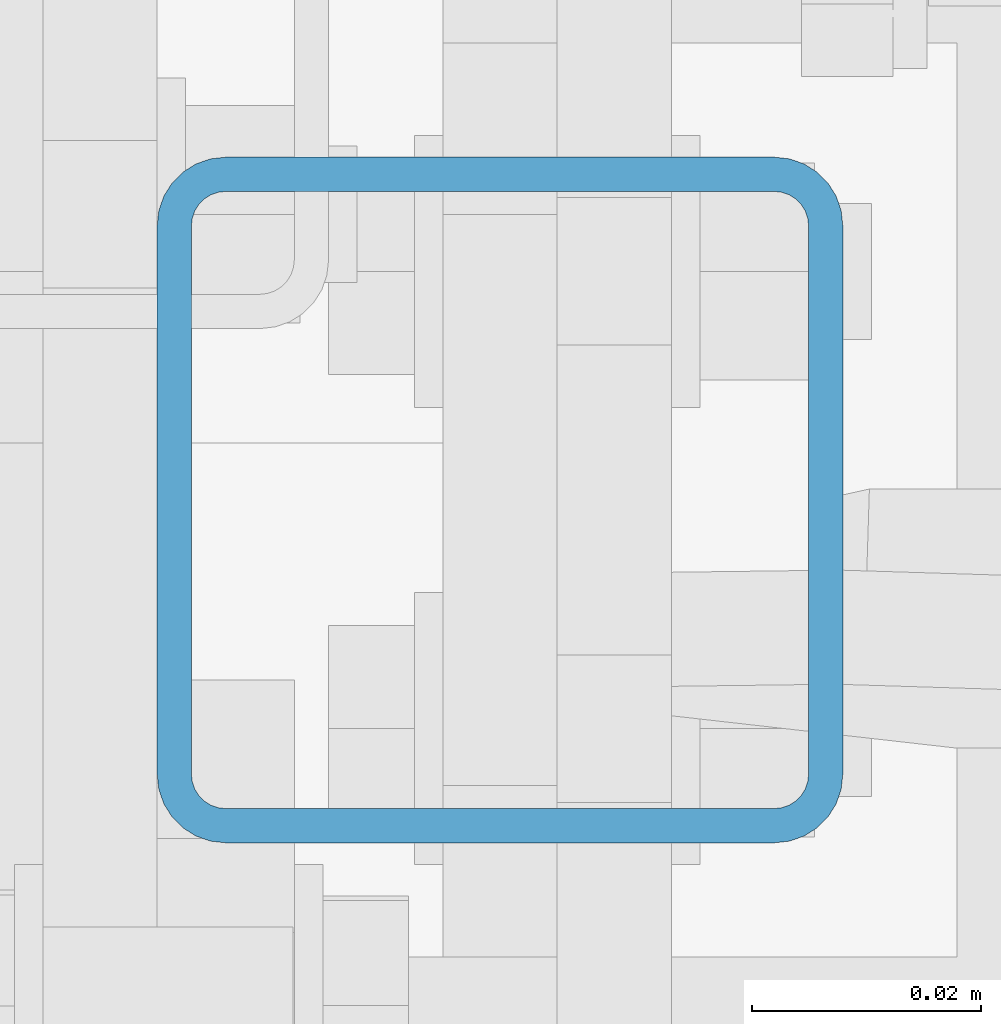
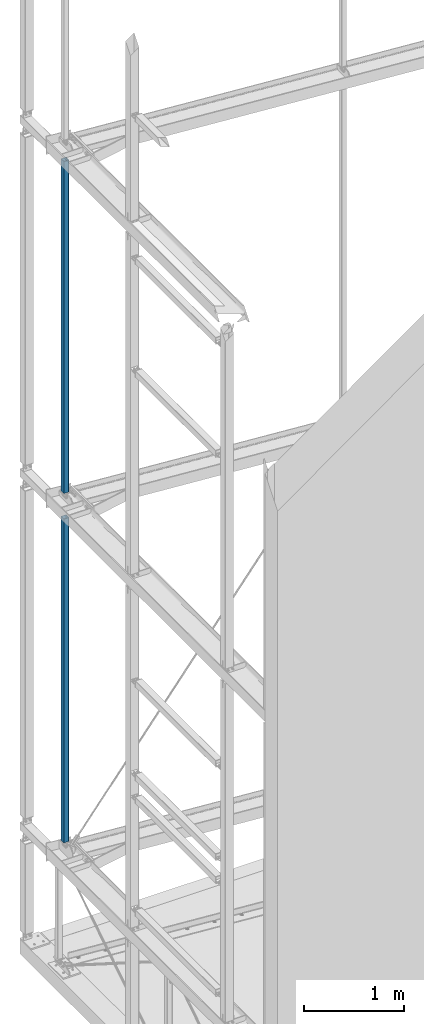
# One storey, part 27 of 271: 2 beams, 2 elements without a shape of their own.
"""IFC2X3 building model written with IfcOpenShell, lengths in millimetres."""

import ifcopenshell
import ifcopenshell.guid

model = None  # the IFC model being written
_history = None  # IfcOwnerHistory: only IFC2X3 demands one
_inside = {}  # id of a spatial element -> (the spatial element, [elements in it])
_under = {}  # id of a project, library or spatial element -> (it, [spatial elements below it])
_declared = {}  # id of a project -> (the project, [libraries it declares])
_typed = {}  # id of a type object -> (the type object, [elements of that type])
_made_of = {}  # id of a material, layer set ... -> (it, [elements and type objects made of it])


def new_model(schema):
    """Start an empty IFC model of exactly this schema.

    Asked for "IFC4X3", IfcOpenShell would pick the latest addendum, in which some entities
    have other attributes; the version numbers below select the first issue.
    IFC2X3 requires an IfcOwnerHistory on every rooted entity: one is made here for all.
    """
    global model, _history
    if schema == "IFC4X3":
        model = ifcopenshell.file(schema_version=(4, 3, 0, 0))
    else:
        model = ifcopenshell.file(schema=schema)
    _inside.clear()
    _under.clear()
    _declared.clear()
    _typed.clear()
    _made_of.clear()
    _history = None
    if model.schema == "IFC2X3":
        org = make("IfcOrganization", Name="unknown")
        user = make(
            "IfcPersonAndOrganization",
            ThePerson=make("IfcPerson", FamilyName="unknown"),
            TheOrganization=org,
        )
        app = make(
            "IfcApplication",
            ApplicationDeveloper=org,
            Version="unknown",
            ApplicationFullName="unknown",
            ApplicationIdentifier="unknown",
        )
        _history = make(
            "IfcOwnerHistory",
            OwningUser=user,
            OwningApplication=app,
            ChangeAction="ADDED",
            CreationDate=0,
        )
    return model


def make(cls, **values):
    """One entity of the class cls with the attributes given. An attribute that is None is left unset."""
    return model.create_entity(
        cls, **{name: value for name, value in values.items() if value is not None}
    )


def rooted(cls, **values):
    """An entity with a GlobalId (a new one), such as an element, a storey or a relation."""
    return make(cls, GlobalId=ifcopenshell.guid.new(), OwnerHistory=_history, **values)


def si_unit(unit_type, name, prefix=None):
    """IfcSIUnit, for example si_unit("LENGTHUNIT", "METRE", prefix="MILLI")."""
    return make("IfcSIUnit", UnitType=unit_type, Prefix=prefix, Name=name)


def assignment(units):
    """IfcUnitAssignment: the units of a project."""
    return None if units is None else make("IfcUnitAssignment", Units=units)


def point(xyz):
    """IfcCartesianPoint."""
    return None if xyz is None else make("IfcCartesianPoint", Coordinates=xyz)


def direction(xyz):
    """IfcDirection."""
    return None if xyz is None else make("IfcDirection", DirectionRatios=xyz)


def frame(location, z_axis=None, x_axis=None):
    """IfcAxis2Placement3D, a coordinate frame: its origin and axes. An axis left out is left unset."""
    return make(
        "IfcAxis2Placement3D",
        Location=point(location),
        Axis=direction(z_axis),
        RefDirection=direction(x_axis),
    )


def frame_2d(location, x_axis=None):
    """IfcAxis2Placement2D, a coordinate frame in the plane: its origin and x axis."""
    return make(
        "IfcAxis2Placement2D", Location=point(location), RefDirection=direction(x_axis)
    )


def origin_with_axes():
    """The frame at (0, 0, 0) with the z axis (0, 0, 1) and the x axis (1, 0, 0) written out."""
    return frame((0.0, 0.0, 0.0), z_axis=(0.0, 0.0, 1.0), x_axis=(1.0, 0.0, 0.0))


def origin_2d_with_axis():
    """The frame at (0, 0) in the plane with the x axis (1, 0) written out."""
    return frame_2d((0.0, 0.0), x_axis=(1.0, 0.0))


def place(relative_to, where):
    """IfcLocalPlacement: puts the frame where relative to a parent placement (None: the world)."""
    return make(
        "IfcLocalPlacement", PlacementRelTo=relative_to, RelativePlacement=where
    )


def context(
    kind, dimensions, precision=None, world=None, true_north=None, identifier=None
):
    """IfcGeometricRepresentationContext, for example the 3D "Model" context."""
    return make(
        "IfcGeometricRepresentationContext",
        ContextIdentifier=identifier,
        ContextType=kind,
        CoordinateSpaceDimension=dimensions,
        Precision=precision,
        WorldCoordinateSystem=world,
        TrueNorth=true_north,
    )


def subcontext(parent, identifier, kind, view, scale=None):
    """IfcGeometricRepresentationSubContext, for example "Body" below "Model"."""
    return make(
        "IfcGeometricRepresentationSubContext",
        ContextIdentifier=identifier,
        ContextType=kind,
        ParentContext=parent,
        TargetScale=scale,
        TargetView=view,
    )


def project(units=None, contexts=None):
    """IfcProject with its units and contexts."""
    return rooted(
        "IfcProject",
        Name="project",
        RepresentationContexts=contexts,
        UnitsInContext=assignment(units),
    )


def spatial(cls, under=None, at=None, **own):
    """A site, building, storey or space (cls), placed at a placement, below another one or the project."""
    s = rooted(cls, ObjectPlacement=at, **own)
    if under is not None:
        _under.setdefault(under.id(), (under, []))[1].append(s)
    return s


def profile(cls, at=None, kind="AREA", **sizes):
    """A parametric profile (cls). Its sizes go by their IFC names, for example OverallWidth=200.0."""
    return make(cls, ProfileType=kind, Position=at, **sizes)


def hollow_rectangle(**sizes):
    """IfcRectangleHollowProfileDef."""
    return profile("IfcRectangleHollowProfileDef", **sizes)


def extrude(swept, where, along, depth):
    """IfcExtrudedAreaSolid: the profile swept, set in the frame where, extruded along a direction by depth."""
    return make(
        "IfcExtrudedAreaSolid",
        SweptArea=swept,
        Position=where,
        ExtrudedDirection=direction(along),
        Depth=depth,
    )


def clip(a, b, op="DIFFERENCE"):
    """IfcBooleanClippingResult: the solid a cut by the half space b."""
    return make(
        "IfcBooleanClippingResult", Operator=op, FirstOperand=a, SecondOperand=b
    )


def halfspace(plane, agree):
    """IfcHalfSpaceSolid: all space on one side of the plane z = 0 of the frame plane."""
    return make(
        "IfcHalfSpaceSolid",
        BaseSurface=make("IfcPlane", Position=plane),
        AgreementFlag=agree,
    )


def shape(context_of_items, identifier, shape_type, items):
    """IfcShapeRepresentation: the items that make up one representation, for example the "Body"."""
    return make(
        "IfcShapeRepresentation",
        ContextOfItems=context_of_items,
        RepresentationIdentifier=identifier,
        RepresentationType=shape_type,
        Items=items,
    )


def material(Name=None, Category=None):
    """IfcMaterial."""
    return make("IfcMaterial", Name=Name, Category=Category)


def made_of(thing, what):
    """Note that an element or type object is made of a material, layer set ...; save() writes the relation."""
    if what is not None:
        _made_of.setdefault(what.id(), (what, []))[1].append(thing)
    return thing


def type_object(cls, material=None, **own):
    """A type object (cls), such as IfcWallType, which elements share."""
    return made_of(rooted(cls, **own), material)


def element(
    cls,
    number,
    at=None,
    inside=None,
    cuts=None,
    type_object=None,
    material=None,
    context=None,
    identifier="Body",
    shape_type=None,
    held_by="IfcProductDefinitionShape",
    body=None,
    shapes=None,
    **own,
):
    """One element of the class cls, such as IfcWall. Its Tag is "e" and its number.

    at: its placement. inside: the storey or other place that contains it. cuts: it is an
    opening in that element (IfcRelVoidsElement). A single representation is given by context,
    identifier, shape_type and body (its items); several are given by shapes. held_by: the class
    of the entity that holds the representations. save() writes the other relations.
    """
    e = rooted(cls, Tag="e%d" % number, ObjectPlacement=at, **own)
    if body is not None:
        shapes = [shape(context, identifier, shape_type, body)]
    if shapes is not None:
        e.Representation = make(held_by, Representations=shapes)
    if inside is not None:
        _inside.setdefault(inside.id(), (inside, []))[1].append(e)
    if cuts is not None:
        rooted(
            "IfcRelVoidsElement", RelatingBuildingElement=cuts, RelatedOpeningElement=e
        )
    if type_object is not None:
        _typed.setdefault(type_object.id(), (type_object, []))[1].append(e)
    return made_of(e, material)


def aggregate(whole, parts):
    """IfcRelAggregates: a whole, such as a stair, and the parts it consists of."""
    return rooted("IfcRelAggregates", RelatingObject=whole, RelatedObjects=parts)


def save(model, path):
    """Write the relations noted so far, then the file.

    IfcRelAggregates (storeys below a building ...), IfcRelContainedInSpatialStructure (elements
    in a storey), IfcRelDefinesByType, IfcRelAssociatesMaterial and IfcRelDeclares: one each for
    every whole, place, type object, material and project.
    """
    for whole, parts in _under.values():
        aggregate(whole, parts)
    for where, things in _inside.values():
        rooted(
            "IfcRelContainedInSpatialStructure",
            RelatedElements=things,
            RelatingStructure=where,
        )
    for kind, things in _typed.values():
        rooted("IfcRelDefinesByType", RelatedObjects=things, RelatingType=kind)
    for what, things in _made_of.values():
        rooted("IfcRelAssociatesMaterial", RelatedObjects=things, RelatingMaterial=what)
    for by, libraries in _declared.values():
        rooted("IfcRelDeclares", RelatingContext=by, RelatedDefinitions=libraries)
    model.write(path)


model = new_model("IFC2X3")

# Units and contexts
model_context = context("Model", 3, precision=1e-05, world=origin_with_axes())
body_context = subcontext(model_context, "Body", "Model", "MODEL_VIEW")
ifc_project = project(units=[si_unit("LENGTHUNIT", "METRE", prefix="MILLI"), si_unit("AREAUNIT", "SQUARE_METRE"), si_unit("VOLUMEUNIT", "CUBIC_METRE"), si_unit("MASSUNIT", "GRAM", prefix="KILO"), si_unit("TIMEUNIT", "SECOND"), si_unit("PLANEANGLEUNIT", "RADIAN"), si_unit("SOLIDANGLEUNIT", "STERADIAN"), si_unit("THERMODYNAMICTEMPERATUREUNIT", "DEGREE_CELSIUS"), si_unit("LUMINOUSINTENSITYUNIT", "LUMEN")], contexts=[model_context])

# Site, building, storey
site_placement = place(None, origin_with_axes())
site = spatial("IfcSite", under=ifc_project, at=site_placement, Name="Undefined", CompositionType="ELEMENT")
building_placement = place(site_placement, origin_with_axes())
building = spatial("IfcBuilding", under=site, at=building_placement, Name="Undefined", CompositionType="ELEMENT")
storey_placement = place(building_placement, origin_with_axes())
storey = spatial("IfcBuildingStorey", under=building, at=storey_placement, Name="Undefined", CompositionType="ELEMENT", Elevation=0.0)

# Assembly, beam
assembly_1_placement = place(storey_placement, origin_with_axes())
assembly_1 = element("IfcElementAssembly", 1, at=assembly_1_placement, inside=storey, AssemblyPlace="NOTDEFINED", PredefinedType="RIGID_FRAME")
ifc_material = material(Name="STEEL/S355JR")
beam_type = type_object("IfcBeamType", Name="SHS60*3", PredefinedType="NOTDEFINED")
beam_1_placement = place(assembly_1_placement, frame((122.999999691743, 4292.19355050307, 5684.34999990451), z_axis=(0.0, 1.0, 0.0), x_axis=(0.0, 0.0, 1.0)))
beam_1 = element("IfcBeam", 2, at=beam_1_placement, type_object=beam_type, material=ifc_material, Name="TĘŻNIK", ObjectType="SHS60*3", context=body_context, shape_type="Clipping", body=[
    clip(clip(extrude(hollow_rectangle(XDim=60.0, YDim=60.0, WallThickness=3.0, InnerFilletRadius=3.0, OuterFilletRadius=6.0, at=origin_2d_with_axis()), frame((4320.0, 0.0, 9.09494701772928e-13), z_axis=(-1.0, 0.0, 1.38777878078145e-17), x_axis=(0.0, -1.0, 0.0)), (0.0, 0.0, 1.0), 4320.0), halfspace(frame((4188.7000000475, 15.0, 0.0), z_axis=(-1.0, 0.0, 1.38777878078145e-17), x_axis=(0.0, 0.0, 1.0)), True)), halfspace(frame((131.299999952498, 15.0, 0.0), z_axis=(1.0, 0.0, 0.0), x_axis=(0.0, 0.0, -1.0)), True)),
])
aggregate(assembly_1, [beam_1])

assembly_2_placement = place(storey_placement, origin_with_axes())
assembly_2 = element("IfcElementAssembly", 3, at=assembly_2_placement, inside=storey, AssemblyPlace="NOTDEFINED", PredefinedType="RIGID_FRAME")
beam_2_placement = place(assembly_2_placement, frame((122.999999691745, 4292.19355050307, 1364.34999990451), z_axis=(0.0, 1.0, 0.0), x_axis=(0.0, 0.0, 1.0)))
beam_2 = element("IfcBeam", 4, at=beam_2_placement, type_object=beam_type, material=ifc_material, Name="TĘŻNIK", ObjectType="SHS60*3", context=body_context, shape_type="Clipping", body=[
    clip(clip(extrude(hollow_rectangle(XDim=60.0, YDim=60.0, WallThickness=3.0, InnerFilletRadius=3.0, OuterFilletRadius=6.0, at=origin_2d_with_axis()), frame((4320.0, 0.0, 9.09494701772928e-13), z_axis=(-1.0, 0.0, 1.38777878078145e-17), x_axis=(0.0, -1.0, 0.0)), (0.0, 0.0, 1.0), 4320.0), halfspace(frame((4138.7000000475, 15.0, 0.0), z_axis=(-1.0, 0.0, 1.38777878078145e-17), x_axis=(0.0, 0.0, 1.0)), True)), halfspace(frame((181.2999999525, 15.0, 0.0), z_axis=(1.0, 0.0, 0.0), x_axis=(0.0, 0.0, -1.0)), True)),
])
aggregate(assembly_2, [beam_2])

save(model, "model.ifc")
